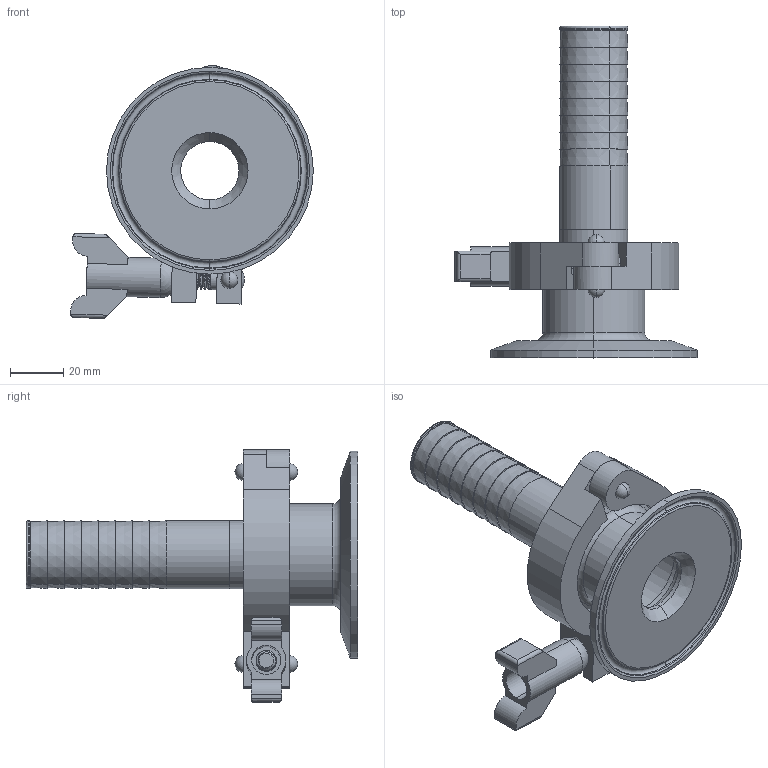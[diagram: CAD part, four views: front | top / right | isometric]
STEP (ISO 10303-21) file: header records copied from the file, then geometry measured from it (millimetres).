
FILE_DESCRIPTION (( 'STEP AP203' ), '1' );
FILE_NAME ('EG62B2.5.STEP', '2019-11-14T20:07:41', ( 'vneprd' ), ( 'Microsoft' ), 'SwSTEP 2.0', 'SolidWorks 2018', '' );
FILE_SCHEMA (( 'CONFIG_CONTROL_DESIGN' ));
Length unit declared in the file: inch
Products named in the file (1): EG62B2.5
Bounding box: 90.77 x 124.16 x 94.63 mm (x, y, z)
Volume: 86566.8 mm3; surface area: 57670.8 mm2
Topology: 10 solids, 10 shells, 297 faces, 707 edges, 449 vertices
Faces by surface type: cylinder 124, plane 71, torus 46, cone 39, sphere 14, bspline 3
Entity records: 13019 total; most frequent: CARTESIAN_POINT 6164, DIRECTION 1479, ORIENTED_EDGE 1406, EDGE_CURVE 703, AXIS2_PLACEMENT_3D 614, VERTEX_POINT 447, EDGE_LOOP 338, CIRCLE 319
